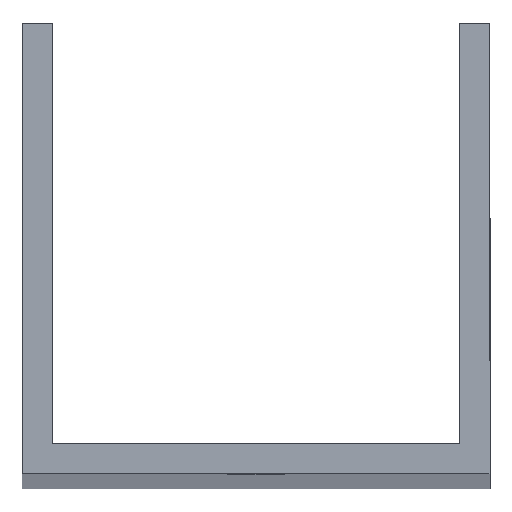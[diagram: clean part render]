
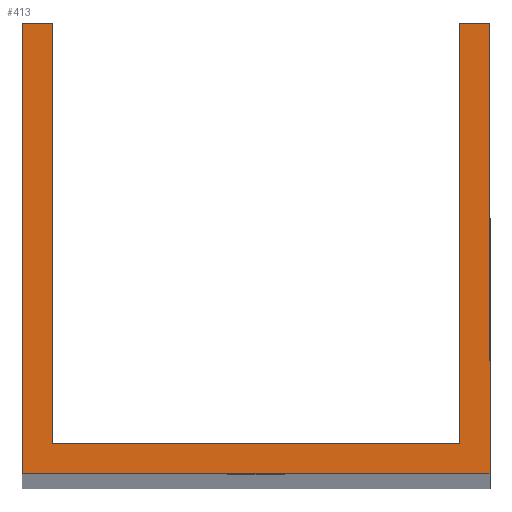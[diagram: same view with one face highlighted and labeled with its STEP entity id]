
A CAD part, top view. The second image highlights one B-rep face of the part: STEP entity #413.
In plain terms, the highlighted planar face has unit normal (0, 0, 1).
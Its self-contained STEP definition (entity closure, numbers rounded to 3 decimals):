
#13 = VERTEX_POINT ( 'NONE', #938 ) ;
#15 = LINE ( 'NONE', #1054, #350 ) ;
#24 = VECTOR ( 'NONE', #109, 1000. ) ;
#54 = LINE ( 'NONE', #752, #262 ) ;
#62 = VECTOR ( 'NONE', #339, 1000. ) ;
#78 = LINE ( 'NONE', #428, #62 ) ;
#84 = DIRECTION ( 'NONE',  ( 0., -1., 0. ) ) ;
#106 = CARTESIAN_POINT ( 'NONE',  ( -27., 52., 500. ) ) ;
#109 = DIRECTION ( 'NONE',  ( 0., 1., 0. ) ) ;
#133 = ORIENTED_EDGE ( 'NONE', *, *, #238, .T. ) ;
#141 = ORIENTED_EDGE ( 'NONE', *, *, #928, .T. ) ;
#143 = EDGE_CURVE ( 'NONE', #361, #652, #15, .T. ) ;
#233 = DIRECTION ( 'NONE',  ( 0., 1., 0. ) ) ;
#238 = EDGE_CURVE ( 'NONE', #652, #1091, #1004, .T. ) ;
#239 = PLANE ( 'NONE',  #936 ) ;
#259 = EDGE_CURVE ( 'NONE', #605, #13, #548, .T. ) ;
#262 = VECTOR ( 'NONE', #233, 1000. ) ;
#279 = VECTOR ( 'NONE', #942, 1000. ) ;
#339 = DIRECTION ( 'NONE',  ( 1., 0., 0. ) ) ;
#350 = VECTOR ( 'NONE', #1046, 1000. ) ;
#361 = VERTEX_POINT ( 'NONE', #763 ) ;
#362 = LINE ( 'NONE', #980, #24 ) ;
#390 = LINE ( 'NONE', #1124, #279 ) ;
#413 = ADVANCED_FACE ( 'NONE', ( #858 ), #239, .T. ) ;
#428 = CARTESIAN_POINT ( 'NONE',  ( -27., 0., 500. ) ) ;
#442 = VECTOR ( 'NONE', #805, 1000. ) ;
#455 = CARTESIAN_POINT ( 'NONE',  ( -27., 52., 500. ) ) ;
#458 = EDGE_CURVE ( 'NONE', #13, #645, #54, .T. ) ;
#459 = DIRECTION ( 'NONE',  ( 0., -1., 0. ) ) ;
#460 = VECTOR ( 'NONE', #459, 1000. ) ;
#484 = VERTEX_POINT ( 'NONE', #707 ) ;
#493 = DIRECTION ( 'NONE',  ( 1., 0., 0. ) ) ;
#516 = EDGE_CURVE ( 'NONE', #361, #605, #779, .T. ) ;
#548 = LINE ( 'NONE', #825, #442 ) ;
#565 = ORIENTED_EDGE ( 'NONE', *, *, #259, .F. ) ;
#589 = EDGE_LOOP ( 'NONE', ( #818, #918, #133, #871, #141, #1123, #997, #565 ) ) ;
#599 = EDGE_CURVE ( 'NONE', #1091, #484, #78, .T. ) ;
#605 = VERTEX_POINT ( 'NONE', #689 ) ;
#606 = CARTESIAN_POINT ( 'NONE',  ( 27., 52., 500. ) ) ;
#645 = VERTEX_POINT ( 'NONE', #659 ) ;
#652 = VERTEX_POINT ( 'NONE', #106 ) ;
#659 = CARTESIAN_POINT ( 'NONE',  ( 23.5, 52., 500. ) ) ;
#689 = CARTESIAN_POINT ( 'NONE',  ( -23.5, 3.5, 500. ) ) ;
#707 = CARTESIAN_POINT ( 'NONE',  ( 27., 0., 500. ) ) ;
#733 = EDGE_CURVE ( 'NONE', #849, #645, #390, .T. ) ;
#747 = DIRECTION ( 'NONE',  ( 0., 0., 1. ) ) ;
#752 = CARTESIAN_POINT ( 'NONE',  ( 23.5, 52., 500. ) ) ;
#763 = CARTESIAN_POINT ( 'NONE',  ( -23.5, 52., 500. ) ) ;
#779 = LINE ( 'NONE', #785, #1030 ) ;
#785 = CARTESIAN_POINT ( 'NONE',  ( -23.5, 52., 500. ) ) ;
#805 = DIRECTION ( 'NONE',  ( 1., 0., 0. ) ) ;
#818 = ORIENTED_EDGE ( 'NONE', *, *, #516, .F. ) ;
#825 = CARTESIAN_POINT ( 'NONE',  ( -27., 3.5, 500. ) ) ;
#849 = VERTEX_POINT ( 'NONE', #606 ) ;
#858 = FACE_OUTER_BOUND ( 'NONE', #589, .T. ) ;
#871 = ORIENTED_EDGE ( 'NONE', *, *, #599, .T. ) ;
#918 = ORIENTED_EDGE ( 'NONE', *, *, #143, .T. ) ;
#928 = EDGE_CURVE ( 'NONE', #484, #849, #362, .T. ) ;
#936 = AXIS2_PLACEMENT_3D ( 'NONE', #1018, #747, #493 ) ;
#938 = CARTESIAN_POINT ( 'NONE',  ( 23.5, 3.5, 500. ) ) ;
#942 = DIRECTION ( 'NONE',  ( -1., 0., 0. ) ) ;
#980 = CARTESIAN_POINT ( 'NONE',  ( 27., 52., 500. ) ) ;
#997 = ORIENTED_EDGE ( 'NONE', *, *, #458, .F. ) ;
#1004 = LINE ( 'NONE', #455, #460 ) ;
#1018 = CARTESIAN_POINT ( 'NONE',  ( 0., 0., 500. ) ) ;
#1030 = VECTOR ( 'NONE', #84, 1000. ) ;
#1046 = DIRECTION ( 'NONE',  ( -1., 0., 0. ) ) ;
#1054 = CARTESIAN_POINT ( 'NONE',  ( -27., 52., 500. ) ) ;
#1091 = VERTEX_POINT ( 'NONE', #1092 ) ;
#1092 = CARTESIAN_POINT ( 'NONE',  ( -27., 0., 500. ) ) ;
#1123 = ORIENTED_EDGE ( 'NONE', *, *, #733, .T. ) ;
#1124 = CARTESIAN_POINT ( 'NONE',  ( -27., 52., 500. ) ) ;
